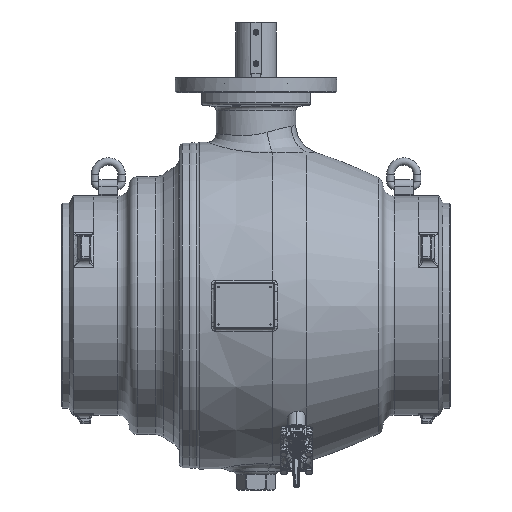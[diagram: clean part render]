
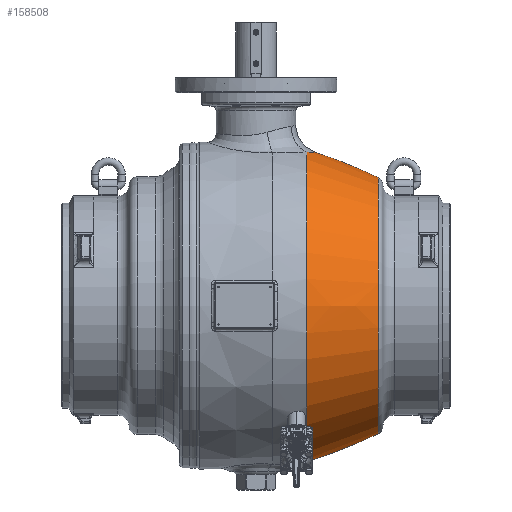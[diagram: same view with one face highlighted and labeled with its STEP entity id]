
A CAD part, front view. The second image highlights one B-rep face of the part: STEP entity #158508.
In plain terms, the highlighted free-form (B-spline) face has degree [3, 3] with [7, 4] control points.
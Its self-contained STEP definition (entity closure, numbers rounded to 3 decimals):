
#36888=CARTESIAN_POINT('',(176.658,-96.05,
531.703));
#36889=CARTESIAN_POINT('',(177.105,-95.395,
531.683));
#36890=CARTESIAN_POINT('',(177.989,-94.081,
531.643));
#36891=CARTESIAN_POINT('',(179.285,-92.099,
531.586));
#36892=CARTESIAN_POINT('',(180.552,-90.105,
531.531));
#36893=CARTESIAN_POINT('',(181.791,-88.101,
531.479));
#36894=CARTESIAN_POINT('',(183.,-86.085,
531.43));
#36895=CARTESIAN_POINT('',(184.18,-84.06,
531.383));
#36896=CARTESIAN_POINT('',(185.33,-82.024,
531.339));
#36897=CARTESIAN_POINT('',(186.452,-79.979,
531.297));
#36898=CARTESIAN_POINT('',(187.544,-77.924,
531.257));
#36899=CARTESIAN_POINT('',(188.606,-75.86,
531.219));
#36900=CARTESIAN_POINT('',(189.639,-73.787,
531.183));
#36901=CARTESIAN_POINT('',(190.643,-71.705,
531.15));
#36902=CARTESIAN_POINT('',(191.617,-69.615,
531.118));
#36903=CARTESIAN_POINT('',(192.562,-67.517,
531.087));
#36904=CARTESIAN_POINT('',(193.477,-65.411,
531.059));
#36905=CARTESIAN_POINT('',(194.362,-63.298,
531.032));
#36906=CARTESIAN_POINT('',(195.218,-61.177,
531.007));
#36907=CARTESIAN_POINT('',(196.044,-59.049,
530.983));
#36908=CARTESIAN_POINT('',(196.84,-56.915,
530.961));
#36909=CARTESIAN_POINT('',(197.607,-54.774,
530.94));
#36910=CARTESIAN_POINT('',(198.343,-52.627,
530.92));
#36911=CARTESIAN_POINT('',(199.05,-50.474,
530.901));
#36912=CARTESIAN_POINT('',(199.727,-48.315,
530.884));
#36913=CARTESIAN_POINT('',(200.374,-46.152,
530.868));
#36914=CARTESIAN_POINT('',(200.991,-43.983,
530.853));
#36915=CARTESIAN_POINT('',(201.578,-41.809,
530.839));
#36916=CARTESIAN_POINT('',(202.135,-39.632,
530.825));
#36917=CARTESIAN_POINT('',(202.662,-37.449,
530.813));
#36918=CARTESIAN_POINT('',(203.159,-35.263,
530.802));
#36919=CARTESIAN_POINT('',(203.626,-33.074,
530.792));
#36920=CARTESIAN_POINT('',(204.062,-30.881,
530.782));
#36921=CARTESIAN_POINT('',(204.469,-28.685,
530.773));
#36922=CARTESIAN_POINT('',(204.845,-26.487,
530.765));
#36923=CARTESIAN_POINT('',(205.192,-24.286,
530.758));
#36924=CARTESIAN_POINT('',(205.508,-22.083,
530.751));
#36925=CARTESIAN_POINT('',(205.794,-19.878,
530.745));
#36926=CARTESIAN_POINT('',(206.05,-17.671,
530.74));
#36927=CARTESIAN_POINT('',(206.276,-15.464,
530.735));
#36928=CARTESIAN_POINT('',(206.472,-13.255,
530.732));
#36929=CARTESIAN_POINT('',(206.637,-11.046,
530.728));
#36930=CARTESIAN_POINT('',(206.773,-8.836,
530.725));
#36931=CARTESIAN_POINT('',(206.878,-6.626,
530.723));
#36932=CARTESIAN_POINT('',(206.953,-4.417,
530.722));
#36933=CARTESIAN_POINT('',(206.998,-2.208,
530.721));
#36934=CARTESIAN_POINT('',(207.008,-0.736,
530.721));
#36935=CARTESIAN_POINT('',(207.008,0.,530.721));
#36937=CARTESIAN_POINT('',(-335.347,0.,-1133.116));
#36938=DIRECTION('',(0.,-1.,0.));
#36939=DIRECTION('',(0.433,0.,0.901));
#36940=AXIS2_PLACEMENT_3D('',#36937,#36938,#36939);
#36942=CARTESIAN_POINT('',(423.,0.,0.));
#36943=DIRECTION('',(1.,0.,0.));
#36944=DIRECTION('',(0.,0.,1.));
#36945=AXIS2_PLACEMENT_3D('',#36942,#36943,#36944);
#36947=CARTESIAN_POINT('',(-335.347,0.,
1133.116));
#36948=DIRECTION('',(0.,1.,0.));
#36949=DIRECTION('',(0.433,0.,-0.901));
#36950=AXIS2_PLACEMENT_3D('',#36947,#36948,#36949);
#37195=CARTESIAN_POINT('',(176.658,-96.05,
531.703));
#37197=CARTESIAN_POINT('',(176.658,0.,0.));
#37198=DIRECTION('',(1.,0.,0.));
#37199=DIRECTION('',(0.,-0.178,0.984));
#37200=AXIS2_PLACEMENT_3D('',#37197,#37198,#37199);
#94841=CARTESIAN_POINT('',(423.,0.,
-444.037));
#94842=CARTESIAN_POINT('',(176.658,0.,
-540.309));
#94843=VERTEX_POINT('',#94841);
#94844=VERTEX_POINT('',#94842);
#94845=CARTESIAN_POINT('',(423.,0.,444.037));
#94846=VERTEX_POINT('',#94845);
#94848=VERTEX_POINT('',#37195);
#94851=VERTEX_POINT('',#36935);
#158471=CARTESIAN_POINT('',(427.769,27.737,
-440.864));
#158472=CARTESIAN_POINT('',(345.093,30.252,
-480.846));
#158473=CARTESIAN_POINT('',(259.525,32.352,
-514.221));
#158474=CARTESIAN_POINT('',(171.593,34.023,
-540.781));
#158475=CARTESIAN_POINT('',(427.769,-243.57,
-457.933));
#158476=CARTESIAN_POINT('',(345.093,-265.66,
-499.463));
#158477=CARTESIAN_POINT('',(259.525,-284.099,
-534.13));
#158478=CARTESIAN_POINT('',(171.593,-298.773,
-561.719));
#158479=CARTESIAN_POINT('',(427.769,-441.735,
-271.843));
#158480=CARTESIAN_POINT('',(345.093,-481.797,
-296.497));
#158481=CARTESIAN_POINT('',(259.525,-515.238,
-317.077));
#158482=CARTESIAN_POINT('',(171.593,-541.851,
-333.454));
#158483=CARTESIAN_POINT('',(427.769,-441.735,
0.));
#158484=CARTESIAN_POINT('',(345.093,-481.797,
0.));
#158485=CARTESIAN_POINT('',(259.525,-515.238,
0.));
#158486=CARTESIAN_POINT('',(171.593,-541.851,
0.));
#158487=CARTESIAN_POINT('',(427.769,-441.735,
271.843));
#158488=CARTESIAN_POINT('',(345.093,-481.797,
296.497));
#158489=CARTESIAN_POINT('',(259.525,-515.238,
317.077));
#158490=CARTESIAN_POINT('',(171.593,-541.851,
333.454));
#158491=CARTESIAN_POINT('',(427.769,-243.57,
457.933));
#158492=CARTESIAN_POINT('',(345.093,-265.66,
499.463));
#158493=CARTESIAN_POINT('',(259.525,-284.099,
534.13));
#158494=CARTESIAN_POINT('',(171.593,-298.773,
561.719));
#158495=CARTESIAN_POINT('',(427.769,27.737,
440.864));
#158496=CARTESIAN_POINT('',(345.093,30.252,
480.846));
#158497=CARTESIAN_POINT('',(259.525,32.352,
514.221));
#158498=CARTESIAN_POINT('',(171.593,34.023,
540.781));
#158499=(BOUNDED_SURFACE()B_SPLINE_SURFACE(3,3,((#158471,#158472,#158473,
#158474),(#158475,#158476,#158477,#158478),(#158479,#158480,#158481,#158482),(
#158483,#158484,#158485,#158486),(#158487,#158488,#158489,#158490),(#158491,
#158492,#158493,#158494),(#158495,#158496,#158497,#158498)),.UNSPECIFIED.,.F.,
.F.,.F.)B_SPLINE_SURFACE_WITH_KNOTS((4,3,4),(4,4),(0.,1.,2.),(0.,1.),
.UNSPECIFIED.)GEOMETRIC_REPRESENTATION_ITEM()RATIONAL_B_SPLINE_SURFACE(((
1.189,1.187,1.187,1.189),(
0.939,0.937,0.937,0.939),(
0.939,0.937,0.937,0.939),(
1.189,1.187,1.187,1.189),(
0.939,0.937,0.937,0.939),(
0.939,0.937,0.937,0.939),(
1.189,1.187,1.187,1.189)))REPRESENTATION_ITEM('')SURFACE());
#158500=ORIENTED_EDGE('',*,*,#158461,.T.);
#158501=ORIENTED_EDGE('',*,*,#157184,.F.);
#158502=ORIENTED_EDGE('',*,*,#157115,.T.);
#158503=ORIENTED_EDGE('',*,*,#157181,.T.);
#158505=ORIENTED_EDGE('',*,*,#158504,.F.);
#158506=EDGE_LOOP('',(#158500,#158501,#158502,#158503,#158505));
#158507=FACE_OUTER_BOUND('',#158506,.F.);
#158508=ADVANCED_FACE('',(#158507),#158499,.T.);
#36936=B_SPLINE_CURVE_WITH_KNOTS('',3,(#36888,#36889,#36890,#36891,#36892,
#36893,#36894,#36895,#36896,#36897,#36898,#36899,#36900,#36901,#36902,#36903,
#36904,#36905,#36906,#36907,#36908,#36909,#36910,#36911,#36912,#36913,#36914,
#36915,#36916,#36917,#36918,#36919,#36920,#36921,#36922,#36923,#36924,#36925,
#36926,#36927,#36928,#36929,#36930,#36931,#36932,#36933,#36934,#36935),
.UNSPECIFIED.,.F.,.F.,(4,1,1,1,1,1,1,1,1,1,1,1,1,1,1,1,1,1,1,1,1,1,1,1,1,1,1,1,
1,1,1,1,1,1,1,1,1,1,1,1,1,1,1,1,1,4),(0.,0.022,0.044,
0.067,0.089,0.111,0.133,
0.156,0.178,0.2,0.222,0.244,
0.267,0.289,0.311,0.333,
0.356,0.378,0.4,0.422,0.444,
0.467,0.489,0.511,0.533,
0.556,0.578,0.6,0.622,0.644,
0.667,0.689,0.711,0.733,
0.756,0.778,0.8,0.822,0.844,
0.867,0.889,0.911,0.933,
0.956,0.978,1.),.UNSPECIFIED.);
#36941=CIRCLE('',#36940,1750.);
#36946=CIRCLE('',#36945,444.037);
#36951=CIRCLE('',#36950,1750.);
#37201=CIRCLE('',#37200,540.309);
#157115=EDGE_CURVE('',#94846,#94843,#36946,.T.);
#157181=EDGE_CURVE('',#94843,#94844,#36951,.T.);
#157184=EDGE_CURVE('',#94846,#94851,#36941,.T.);
#158461=EDGE_CURVE('',#94848,#94851,#36936,.T.);
#158504=EDGE_CURVE('',#94848,#94844,#37201,.T.);
